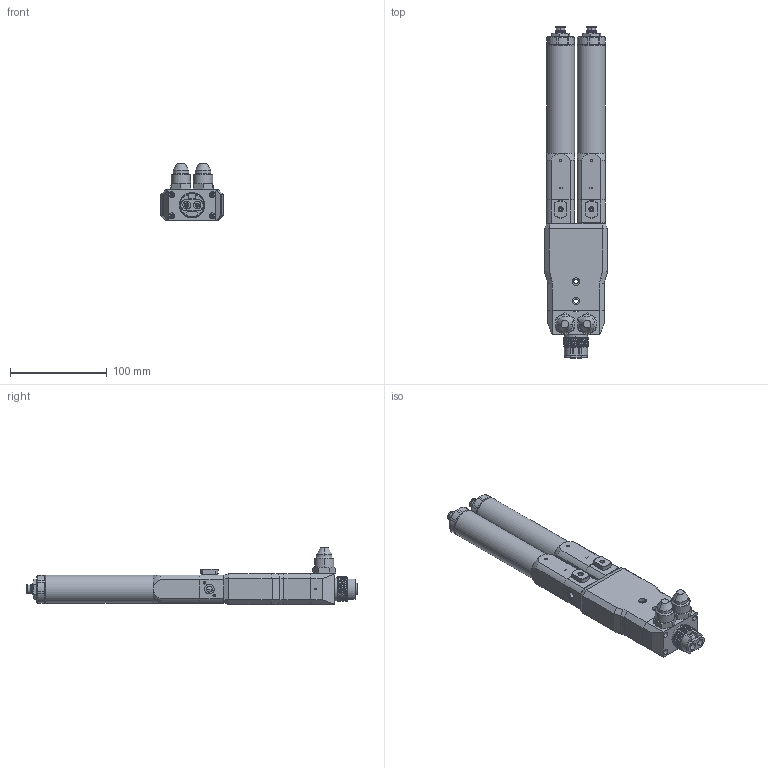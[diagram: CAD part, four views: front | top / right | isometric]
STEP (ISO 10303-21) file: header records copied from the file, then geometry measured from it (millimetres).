
FILE_DESCRIPTION (( 'STEP AP214' ), '1' );
FILE_NAME ('PDPM-1000-500FA.STEP', '2024-10-11T12:25:10', ( '' ), ( '' ), 'SwSTEP 2.0', 'SolidWorks 2024', '' );
FILE_SCHEMA (( 'AUTOMOTIVE_DESIGN' ));
Length unit declared in the file: millimetre
Products named in the file (1): PDPM-1000-500FA
Bounding box: 65 x 344 x 59.3 mm (x, y, z)
Volume: 509412 mm3; surface area: 118493.4 mm2
Topology: 12 solids, 12 shells, 1226 faces, 3015 edges, 1896 vertices
Faces by surface type: plane 468, cylinder 451, cone 267, bspline 20, torus 12, sphere 8
Full cylindrical faces by diameter (mm): 29 x2
Entity records: 48700 total; most frequent: CARTESIAN_POINT 20064, ORIENTED_EDGE 5958, DIRECTION 5937, EDGE_CURVE 2979, AXIS2_PLACEMENT_3D 2323, VERTEX_POINT 1896, EDGE_LOOP 1383, VECTOR 1291
